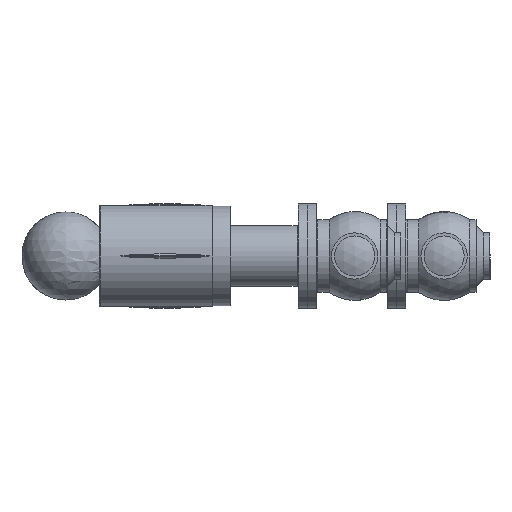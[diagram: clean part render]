
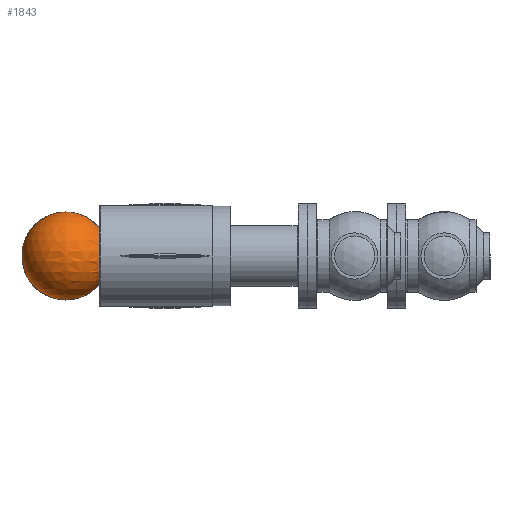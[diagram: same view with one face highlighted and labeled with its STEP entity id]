
A CAD part, left-side view. The second image highlights one B-rep face of the part: STEP entity #1843.
In plain terms, the highlighted spherical face has radius 72.5 mm.
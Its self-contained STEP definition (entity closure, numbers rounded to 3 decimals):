
#123=SPHERICAL_SURFACE('',#2146,72.5);
#211=FACE_BOUND('',#508,.T.);
#394=FACE_OUTER_BOUND('',#507,.T.);
#507=EDGE_LOOP('',(#1412,#1413));
#508=EDGE_LOOP('',(#1414));
#646=CIRCLE('',#2147,72.5);
#647=CIRCLE('',#2148,46.648);
#855=VERTEX_POINT('',#3587);
#856=VERTEX_POINT('',#3588);
#857=VERTEX_POINT('',#3590);
#1072=EDGE_CURVE('',#855,#856,#646,.T.);
#1073=EDGE_CURVE('',#857,#857,#647,.T.);
#1412=ORIENTED_EDGE('',*,*,#1072,.T.);
#1413=ORIENTED_EDGE('',*,*,#1072,.F.);
#1414=ORIENTED_EDGE('',*,*,#1073,.F.);
#1843=ADVANCED_FACE('',(#394,#211),#123,.T.);
#2146=AXIS2_PLACEMENT_3D('',#3586,#2562,#2563);
#2147=AXIS2_PLACEMENT_3D('',#3589,#2564,#2565);
#2148=AXIS2_PLACEMENT_3D('',#3591,#2566,#2567);
#2562=DIRECTION('center_axis',(0.,0.,1.));
#2563=DIRECTION('ref_axis',(1.,0.,0.));
#2564=DIRECTION('center_axis',(0.,-1.,0.));
#2565=DIRECTION('ref_axis',(-1.,0.,0.));
#2566=DIRECTION('center_axis',(0.,-1.,0.));
#2567=DIRECTION('ref_axis',(1.,0.,0.));
#3586=CARTESIAN_POINT('Origin',(150.,266.5,0.));
#3587=CARTESIAN_POINT('',(150.,266.5,72.5));
#3588=CARTESIAN_POINT('',(150.,266.5,-72.5));
#3589=CARTESIAN_POINT('Origin',(150.,266.5,0.));
#3590=CARTESIAN_POINT('',(196.648,211.,0.));
#3591=CARTESIAN_POINT('Origin',(150.,211.,0.));
